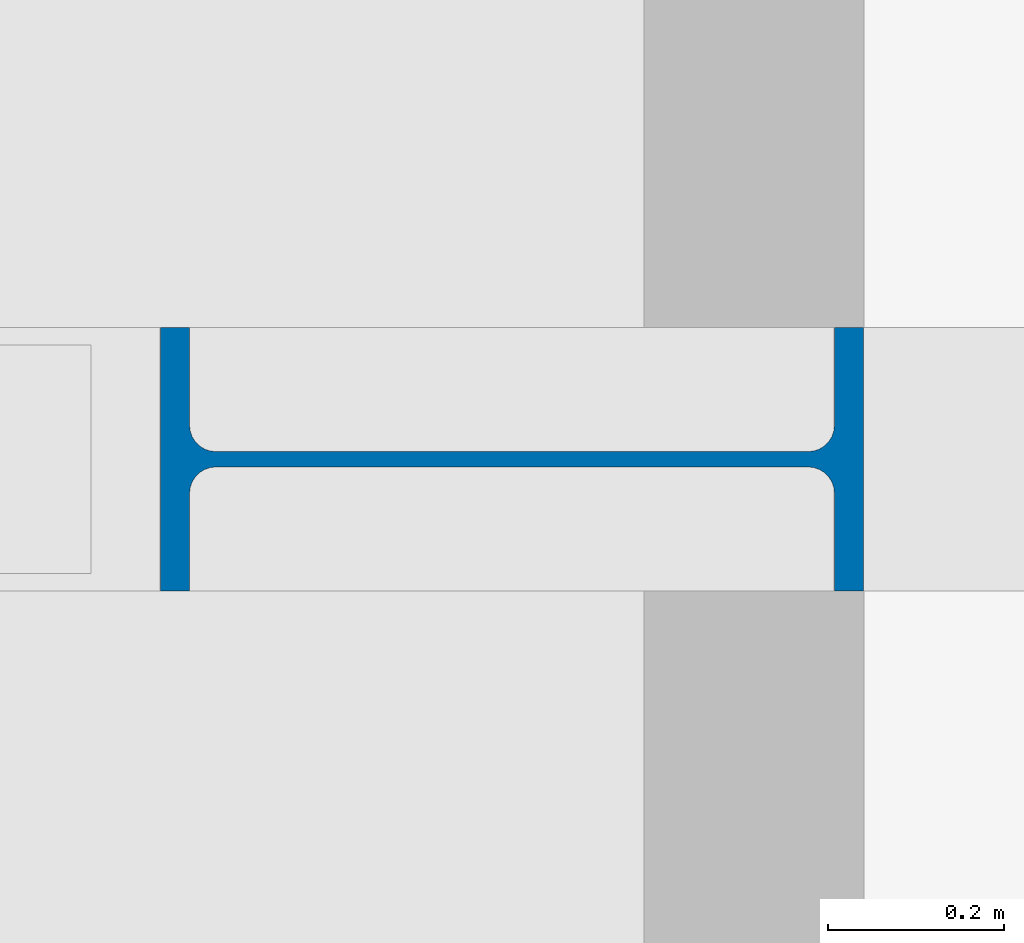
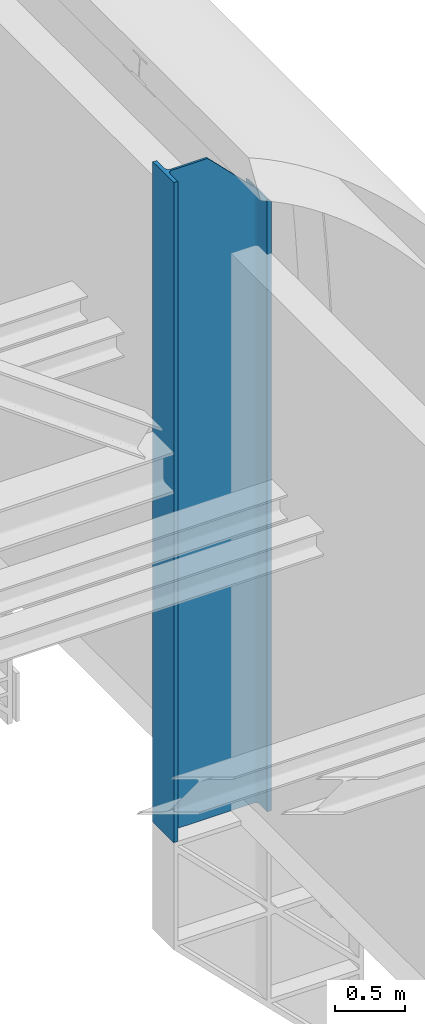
# One storey, part 4 of 29: 1 column.
"""IFC2X3 building model written with IfcOpenShell, lengths in millimetres."""

from ifc_helpers import new_model, entity, si_unit, converted_unit, derived_unit, direction, frame, frame_2d, origin, place, context, subcontext, project, spatial, i_section, extrude, clip, halfspace, source, transform, mapped, material, type_object, type_shapes, element, save


model = new_model("IFC2X3")

# Units and contexts
model_context = context("Model", 3, precision=0.01, world=origin(), true_north=direction((6.12303176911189e-17, 1.0)))
body_context = subcontext(model_context, "Body", "Model", "MODEL_VIEW")
ifc_project = project(units=[si_unit("LENGTHUNIT", "METRE", prefix="MILLI"), si_unit("AREAUNIT", "SQUARE_METRE", prefix="MILLI"), si_unit("VOLUMEUNIT", "CUBIC_METRE"), converted_unit("PLANEANGLEUNIT", "DEGREE", entity("IfcRatioMeasure", 0.0174532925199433), si_unit("PLANEANGLEUNIT", "RADIAN"), dimensions=[0, 0, 0, 0, 0, 0, 0]), si_unit("MASSUNIT", "GRAM", prefix="KILO"), derived_unit("MASSDENSITYUNIT", [(si_unit("MASSUNIT", "GRAM", prefix="KILO"), 1), (si_unit("LENGTHUNIT", "METRE"), -3)]), derived_unit("MOMENTOFINERTIAUNIT", [(si_unit("LENGTHUNIT", "METRE"), 4)]), si_unit("TIMEUNIT", "SECOND"), si_unit("FREQUENCYUNIT", "HERTZ"), si_unit("THERMODYNAMICTEMPERATUREUNIT", "DEGREE_CELSIUS"), derived_unit("THERMALTRANSMITTANCEUNIT", [(si_unit("MASSUNIT", "GRAM", prefix="KILO"), 1), (si_unit("THERMODYNAMICTEMPERATUREUNIT", "KELVIN"), -1), (si_unit("TIMEUNIT", "SECOND"), -3)]), derived_unit("VOLUMETRICFLOWRATEUNIT", [(si_unit("LENGTHUNIT", "METRE"), 3), (si_unit("TIMEUNIT", "SECOND"), -1)]), si_unit("ELECTRICCURRENTUNIT", "AMPERE"), si_unit("ELECTRICVOLTAGEUNIT", "VOLT"), si_unit("POWERUNIT", "WATT"), si_unit("FORCEUNIT", "NEWTON", prefix="KILO"), si_unit("ILLUMINANCEUNIT", "LUX"), si_unit("LUMINOUSFLUXUNIT", "LUMEN"), si_unit("LUMINOUSINTENSITYUNIT", "CANDELA"), derived_unit("USERDEFINED", [(si_unit("MASSUNIT", "GRAM", prefix="KILO"), -1), (si_unit("LENGTHUNIT", "METRE"), -2), (si_unit("TIMEUNIT", "SECOND"), 3), (si_unit("LUMINOUSFLUXUNIT", "LUMEN"), 1)]), derived_unit("LINEARVELOCITYUNIT", [(si_unit("LENGTHUNIT", "METRE"), 1), (si_unit("TIMEUNIT", "SECOND"), -1)]), si_unit("PRESSUREUNIT", "PASCAL"), derived_unit("USERDEFINED", [(si_unit("LENGTHUNIT", "METRE"), -2), (si_unit("MASSUNIT", "GRAM", prefix="KILO"), 1), (si_unit("TIMEUNIT", "SECOND"), -2)]), derived_unit("LINEARFORCEUNIT", [(si_unit("MASSUNIT", "GRAM", prefix="KILO"), 1), (si_unit("LENGTHUNIT", "METRE"), 1), (si_unit("TIMEUNIT", "SECOND"), -2), (si_unit("LENGTHUNIT", "METRE"), -1)]), derived_unit("PLANARFORCEUNIT", [(si_unit("MASSUNIT", "GRAM", prefix="KILO"), 1), (si_unit("LENGTHUNIT", "METRE"), 1), (si_unit("TIMEUNIT", "SECOND"), -2), (si_unit("LENGTHUNIT", "METRE"), -2)])], contexts=[model_context])

# Site, building, storey
site_placement = place(None, origin())
site = spatial("IfcSite", under=ifc_project, at=site_placement, Name="Theater aan de Parade", CompositionType="ELEMENT")
building_placement = place(site_placement, origin())
building = spatial("IfcBuilding", under=site, at=building_placement, Name="Theater aan de Parade", CompositionType="ELEMENT")
storey_placement = place(building_placement, frame((0.0, 0.0, 20300.0)))
storey = spatial("IfcBuildingStorey", under=building, at=storey_placement, Name="05 vijfde verdieping", CompositionType="ELEMENT", Elevation=20300.0)

# Column
ifc_material = material(Name="00_PBT_MAT_staal_S355")
column_type = type_object("IfcColumnType", Name="28_PBT_SC_staal_H-profiel:S355_HE800B", PredefinedType="COLUMN", material=ifc_material)
shared_shape = source(origin(), body_context, "Body", "Clipping", [
    clip(extrude(i_section(OverallWidth=300.000000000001, OverallDepth=799.999999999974, WebThickness=17.5000000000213, FlangeThickness=32.9999999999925, FilletRadius=29.9999999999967, at=frame_2d((-4.32009983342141e-12, -1.73372427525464e-11), x_axis=(1.0, 0.0))), frame((85904.5647725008, 34910.0, 19520.0), z_axis=(0.0, 0.0, 1.0), x_axis=(0.0, -1.0, 0.0)), (0.0, 0.0, 1.0), 5730.0), halfspace(frame((85554.5647724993, 35868.1089971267, 25558.9492687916), z_axis=(0.707106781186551, 0.0, 0.707106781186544), x_axis=(-0.707106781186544, 0.0, 0.707106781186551)), False)),
])
type_shapes(column_type, [shared_shape])
column_placement = place(storey_placement, frame((0.0, 0.0, -20300.0)))
element("IfcColumn", 1, at=column_placement, inside=storey, type_object=column_type, material=ifc_material, Name="28_PBT_SC_staal_H-profiel:S355_HE800B", ObjectType="28_PBT_SC_staal_H-profiel:S355_HE800B", context=body_context, shape_type="MappedRepresentation", body=[
    mapped(shared_shape, transform((0.0, 0.0, 0.0), scale=1.0)),
])

save(model, "model.ifc")
